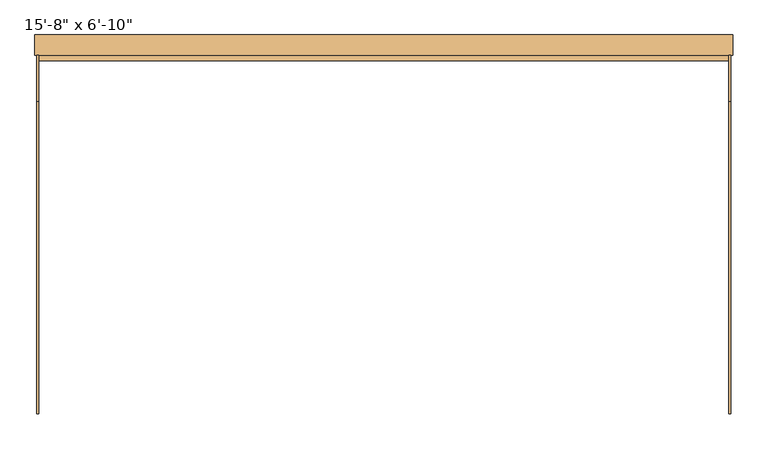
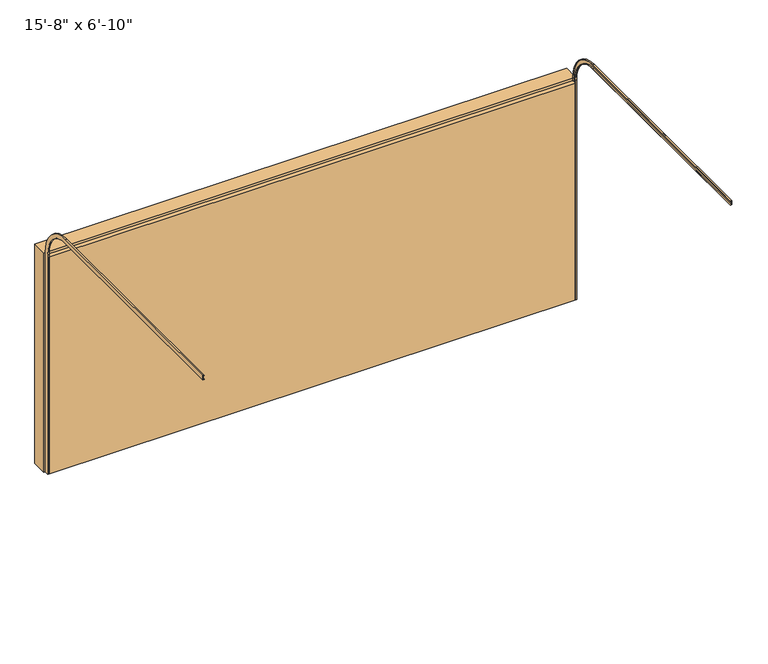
"""IFC4 building model written with IfcOpenShell, lengths in millimetres: door geometry."""

from ifc_helpers import new_model, si_unit, frame, origin, origin_with_axes, place, context, project, spatial, polyline, circle_curve, outline, extrude, source, transform, mapped, element, save
from ifc_brep_helpers import plane_surface, cylinder_surface, revolved_surface, advanced_brep


def door_f78515df(model_context):
    return source(origin(), model_context, "Body", "SolidModel", [
        advanced_brep(
        [(2400.3, -113.025, 0.0), (2387.6, -113.025, 0.0), (2387.6, -109.85, 0.0), (2397.125, -109.85, 0.0), (2397.125, -76.225, 0.0), (2387.6, -76.225, 0.0), (2387.6, -73.025, 0.0), (2400.3, -73.025, 0.0), (2400.3, -113.025, 2107.8), (2387.6, -113.025, 2107.8), (2387.6, -392.425, 2387.2), (2387.6, -2551.425, 2387.2), (2387.6, -2551.425, 2390.375), (2387.6, -392.425, 2390.375), (2387.6, -109.85, 2107.8), (2397.125, -109.85, 2107.8), (2397.125, -392.425, 2390.375), (2397.125, -2551.425, 2390.375), (2397.125, -2551.425, 2424.0), (2397.125, -392.425, 2424.0), (2397.125, -76.225, 2107.8), (2387.6, -76.225, 2107.8), (2387.6, -392.425, 2424.0), (2387.6, -2551.425, 2424.0), (2387.6, -2551.425, 2427.2), (2387.6, -392.425, 2427.2), (2387.6, -73.025, 2107.8), (2400.3, -73.025, 2107.8), (2400.3, -392.425, 2427.2), (2400.3, -2551.425, 2427.2), (2400.3, -2551.425, 2387.2), (2400.3, -392.425, 2387.2)],
        [
            (0, 1),
            (1, 2),
            (2, 3),
            (3, 4),
            (4, 5),
            (5, 6),
            (6, 7),
            (7, 0),
            (0, 8),
            (8, 9),
            (9, 1),
            (9, 10, circle_curve(frame((2387.6, -392.425, 2107.8), z_axis=(1.0, 0.0, 0.0), x_axis=(0.0, 1.0, 0.0)), 279.4)),
            (10, 11),
            (11, 12),
            (12, 13),
            (13, 14, circle_curve(frame((2387.6, -392.425, 2107.8), z_axis=(-1.0, 0.0, 0.0), x_axis=(0.0, 1.0, 0.0)), 282.575)),
            (14, 2),
            (14, 15),
            (15, 3),
            (15, 16, circle_curve(frame((2397.125, -392.425, 2107.8), z_axis=(1.0, 0.0, 0.0), x_axis=(0.0, 1.0, 0.0)), 282.575)),
            (16, 17),
            (17, 18),
            (18, 19),
            (19, 20, circle_curve(frame((2397.125, -392.425, 2107.8), z_axis=(-1.0, 0.0, 0.0), x_axis=(0.0, 1.0, 0.0)), 316.2)),
            (20, 4),
            (20, 21),
            (21, 5),
            (21, 22, circle_curve(frame((2387.6, -392.425, 2107.8), z_axis=(1.0, 0.0, 0.0), x_axis=(0.0, 1.0, 0.0)), 316.2)),
            (22, 23),
            (23, 24),
            (24, 25),
            (25, 26, circle_curve(frame((2387.6, -392.425, 2107.8), z_axis=(-1.0, 0.0, 0.0), x_axis=(0.0, 1.0, 0.0)), 319.4)),
            (26, 6),
            (26, 27),
            (27, 7),
            (27, 28, circle_curve(frame((2400.3, -392.425, 2107.8), z_axis=(1.0, 0.0, 0.0), x_axis=(0.0, 1.0, 0.0)), 319.4)),
            (28, 29),
            (29, 30),
            (30, 31),
            (31, 8, circle_curve(frame((2400.3, -392.425, 2107.8), z_axis=(-1.0, 0.0, 0.0), x_axis=(0.0, 1.0, 0.0)), 279.4)),
            (31, 10),
            (13, 16),
            (19, 22),
            (25, 28),
            (29, 24),
            (23, 18),
            (17, 12),
            (11, 30),
        ],
        [
            plane_surface(frame((0.0, -113.025, 0.0), z_axis=(0.0, 0.0, -1.0), x_axis=(1.0, 0.0, 0.0))),
            plane_surface(frame((2400.3, -113.025, 0.0), z_axis=(0.0, -1.0, 0.0), x_axis=(0.0, 0.0, 1.0))),
            plane_surface(frame((2387.6, -113.025, 0.0), z_axis=(-1.0, 0.0, 0.0), x_axis=(0.0, 0.0, 1.0))),
            plane_surface(frame((2387.6, -109.85, 0.0), z_axis=(0.0, 1.0, 0.0), x_axis=(0.0, 0.0, 1.0))),
            plane_surface(frame((2397.125, -109.85, 0.0), z_axis=(-1.0, 0.0, 0.0), x_axis=(0.0, 0.0, 1.0))),
            plane_surface(frame((2397.125, -76.225, 0.0), z_axis=(0.0, -1.0, 0.0), x_axis=(0.0, 0.0, 1.0))),
            plane_surface(frame((2387.6, -76.225, 0.0), z_axis=(-1.0, 0.0, 0.0), x_axis=(0.0, 0.0, 1.0))),
            plane_surface(frame((2387.6, -73.025, 0.0), z_axis=(0.0, 1.0, 0.0), x_axis=(0.0, 0.0, 1.0))),
            plane_surface(frame((2400.3, -73.025, 0.0), z_axis=(1.0, 0.0, 0.0), x_axis=(0.0, 0.0, 1.0))),
            revolved_surface(polyline([(2400.3, -113.02500000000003, 2107.8), (2387.6, -113.02500000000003, 2107.8)]), (0.0, -392.425, 2107.8), (1.0, 0.0, 0.0)),
            cylinder_surface(frame((0.0, -392.425, 2107.8), z_axis=(1.0, 0.0, 0.0), x_axis=(0.0, 1.0, 0.0)), 282.575),
            revolved_surface(polyline([(2397.125, -76.22500000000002, 2107.8), (2387.6, -76.22500000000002, 2107.8)]), (0.0, -392.425, 2107.8), (1.0, 0.0, 0.0)),
            cylinder_surface(frame((0.0, -392.425, 2107.8), z_axis=(1.0, 0.0, 0.0), x_axis=(0.0, 1.0, 0.0)), 319.4),
            plane_surface(frame((0.0, -2551.425, 2387.2), z_axis=(0.0, -1.0, 0.0), x_axis=(1.0, 0.0, 0.0))),
            plane_surface(frame((2400.3, -392.425, 2387.2), z_axis=(0.0, 0.0, -1.0), x_axis=(0.0, -1.0, 0.0))),
            plane_surface(frame((2387.6, -392.425, 2390.375), z_axis=(0.0, 0.0, 1.0), x_axis=(0.0, -1.0, 0.0))),
            plane_surface(frame((2397.125, -392.425, 2424.0), z_axis=(0.0, 0.0, -1.0), x_axis=(0.0, -1.0, 0.0))),
            plane_surface(frame((2387.6, -392.425, 2427.2), z_axis=(0.0, 0.0, 1.0), x_axis=(0.0, -1.0, 0.0))),
        ],
        [
            (0, [[1, 2, 3, 4, 5, 6, 7, 8]]),
            (1, [[-1, 9, 10, 11]]),
            (2, [[-2, -11, 12, 13, 14, 15, 16, 17]]),
            (3, [[-3, -17, 18, 19]]),
            (4, [[-4, -19, 20, 21, 22, 23, 24, 25]]),
            (5, [[-5, -25, 26, 27]]),
            (6, [[-6, -27, 28, 29, 30, 31, 32, 33]]),
            (7, [[-7, -33, 34, 35]]),
            (8, [[-8, -35, 36, 37, 38, 39, 40, -9]]),
            (9, [[-12, -10, -40, 41]]),
            (10, [[-20, -18, -16, 42]]),
            (11, [[-28, -26, -24, 43]]),
            (12, [[-36, -34, -32, 44]]),
            (13, [[-38, 45, -30, 46, -22, 47, -14, 48]]),
            (14, [[-41, -39, -48, -13]]),
            (15, [[-42, -15, -47, -21]]),
            (16, [[-43, -23, -46, -29]]),
            (17, [[-44, -31, -45, -37]]),
        ],
    ),
        advanced_brep(
        [(-2400.3, -113.025, 0.0), (-2400.3, -73.025, 0.0), (-2387.6, -73.025, 0.0), (-2387.6, -76.225, 0.0), (-2397.125, -76.225, 0.0), (-2397.125, -109.85, 0.0), (-2387.6, -109.85, 0.0), (-2387.6, -113.025, 0.0), (-2400.3, -113.025, 2107.8), (-2400.3, -392.425, 2387.2), (-2400.3, -2551.425, 2387.2), (-2400.3, -2551.425, 2427.2), (-2400.3, -392.425, 2427.2), (-2400.3, -73.025, 2107.8), (-2387.6, -73.025, 2107.8), (-2387.6, -392.425, 2427.2), (-2387.6, -2551.425, 2427.2), (-2387.6, -2551.425, 2424.0), (-2387.6, -392.425, 2424.0), (-2387.6, -76.225, 2107.8), (-2397.125, -76.225, 2107.8), (-2397.125, -392.425, 2424.0), (-2397.125, -2551.425, 2424.0), (-2397.125, -2551.425, 2390.375), (-2397.125, -392.425, 2390.375), (-2397.125, -109.85, 2107.8), (-2387.6, -109.85, 2107.8), (-2387.6, -392.425, 2390.375), (-2387.6, -2551.425, 2390.375), (-2387.6, -2551.425, 2387.2), (-2387.6, -392.425, 2387.2), (-2387.6, -113.025, 2107.8)],
        [
            (0, 1),
            (1, 2),
            (2, 3),
            (3, 4),
            (4, 5),
            (5, 6),
            (6, 7),
            (7, 0),
            (0, 8),
            (8, 9, circle_curve(frame((-2400.3, -392.425, 2107.8), z_axis=(1.0, 0.0, 0.0), x_axis=(0.0, 1.0, 0.0)), 279.4)),
            (9, 10),
            (10, 11),
            (11, 12),
            (12, 13, circle_curve(frame((-2400.3, -392.425, 2107.8), z_axis=(-1.0, 0.0, 0.0), x_axis=(0.0, 1.0, 0.0)), 319.4)),
            (13, 1),
            (13, 14),
            (14, 2),
            (14, 15, circle_curve(frame((-2387.6, -392.425, 2107.8), z_axis=(1.0, 0.0, 0.0), x_axis=(0.0, 1.0, 0.0)), 319.4)),
            (15, 16),
            (16, 17),
            (17, 18),
            (18, 19, circle_curve(frame((-2387.6, -392.425, 2107.8), z_axis=(-1.0, 0.0, 0.0), x_axis=(0.0, 1.0, 0.0)), 316.2)),
            (19, 3),
            (19, 20),
            (20, 4),
            (20, 21, circle_curve(frame((-2397.125, -392.425, 2107.8), z_axis=(1.0, 0.0, 0.0), x_axis=(0.0, 1.0, 0.0)), 316.2)),
            (21, 22),
            (22, 23),
            (23, 24),
            (24, 25, circle_curve(frame((-2397.125, -392.425, 2107.8), z_axis=(-1.0, 0.0, 0.0), x_axis=(0.0, 1.0, 0.0)), 282.575)),
            (25, 5),
            (25, 26),
            (26, 6),
            (26, 27, circle_curve(frame((-2387.6, -392.425, 2107.8), z_axis=(1.0, 0.0, 0.0), x_axis=(0.0, 1.0, 0.0)), 282.575)),
            (27, 28),
            (28, 29),
            (29, 30),
            (30, 31, circle_curve(frame((-2387.6, -392.425, 2107.8), z_axis=(-1.0, 0.0, 0.0), x_axis=(0.0, 1.0, 0.0)), 279.4)),
            (31, 7),
            (31, 8),
            (12, 15),
            (18, 21),
            (24, 27),
            (30, 9),
            (10, 29),
            (28, 23),
            (22, 17),
            (16, 11),
        ],
        [
            plane_surface(frame((0.0, -113.025, 0.0), z_axis=(0.0, 0.0, -1.0), x_axis=(1.0, 0.0, 0.0))),
            plane_surface(frame((-2400.3, -113.025, 0.0), z_axis=(-1.0, 0.0, 0.0), x_axis=(0.0, 0.0, 1.0))),
            plane_surface(frame((-2400.3, -73.025, 0.0), z_axis=(0.0, 1.0, 0.0), x_axis=(0.0, 0.0, 1.0))),
            plane_surface(frame((-2387.6, -73.025, 0.0), z_axis=(1.0, 0.0, 0.0), x_axis=(0.0, 0.0, 1.0))),
            plane_surface(frame((-2387.6, -76.225, 0.0), z_axis=(0.0, -1.0, 0.0), x_axis=(0.0, 0.0, 1.0))),
            plane_surface(frame((-2397.125, -76.225, 0.0), z_axis=(1.0, 0.0, 0.0), x_axis=(0.0, 0.0, 1.0))),
            plane_surface(frame((-2397.125, -109.85, 0.0), z_axis=(0.0, 1.0, 0.0), x_axis=(0.0, 0.0, 1.0))),
            plane_surface(frame((-2387.6, -109.85, 0.0), z_axis=(1.0, 0.0, 0.0), x_axis=(0.0, 0.0, 1.0))),
            plane_surface(frame((-2387.6, -113.025, 0.0), z_axis=(0.0, -1.0, 0.0), x_axis=(0.0, 0.0, 1.0))),
            cylinder_surface(frame((0.0, -392.425, 2107.8), z_axis=(1.0, 0.0, 0.0), x_axis=(0.0, 1.0, 0.0)), 319.4),
            revolved_surface(polyline([(-2387.6, -76.22500000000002, 2107.8), (-2397.125, -76.22500000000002, 2107.8)]), (0.0, -392.425, 2107.8), (1.0, 0.0, 0.0)),
            cylinder_surface(frame((0.0, -392.425, 2107.8), z_axis=(1.0, 0.0, 0.0), x_axis=(0.0, 1.0, 0.0)), 282.575),
            revolved_surface(polyline([(-2387.6, -113.02500000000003, 2107.8), (-2400.3, -113.02500000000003, 2107.8)]), (0.0, -392.425, 2107.8), (1.0, 0.0, 0.0)),
            plane_surface(frame((0.0, -2551.425, 2387.2), z_axis=(0.0, -1.0, 0.0), x_axis=(1.0, 0.0, 0.0))),
            plane_surface(frame((-2400.3, -392.425, 2427.2), z_axis=(0.0, 0.0, 1.0), x_axis=(0.0, -1.0, 0.0))),
            plane_surface(frame((-2387.6, -392.425, 2424.0), z_axis=(0.0, 0.0, -1.0), x_axis=(0.0, -1.0, 0.0))),
            plane_surface(frame((-2397.125, -392.425, 2390.375), z_axis=(0.0, 0.0, 1.0), x_axis=(0.0, -1.0, 0.0))),
            plane_surface(frame((-2387.6, -392.425, 2387.2), z_axis=(0.0, 0.0, -1.0), x_axis=(0.0, -1.0, 0.0))),
        ],
        [
            (0, [[1, 2, 3, 4, 5, 6, 7, 8]]),
            (1, [[-1, 9, 10, 11, 12, 13, 14, 15]]),
            (2, [[-2, -15, 16, 17]]),
            (3, [[-3, -17, 18, 19, 20, 21, 22, 23]]),
            (4, [[-4, -23, 24, 25]]),
            (5, [[-5, -25, 26, 27, 28, 29, 30, 31]]),
            (6, [[-6, -31, 32, 33]]),
            (7, [[-7, -33, 34, 35, 36, 37, 38, 39]]),
            (8, [[-8, -39, 40, -9]]),
            (9, [[-18, -16, -14, 41]]),
            (10, [[-26, -24, -22, 42]]),
            (11, [[-34, -32, -30, 43]]),
            (12, [[-10, -40, -38, 44]]),
            (13, [[45, -36, 46, -28, 47, -20, 48, -12]]),
            (14, [[-41, -13, -48, -19]]),
            (15, [[-42, -21, -47, -27]]),
            (16, [[-43, -29, -46, -35]]),
            (17, [[-44, -37, -45, -11]]),
        ],
    ),
        extrude(outline(polyline([(0.0, 2387.6), (0.0, 2412.6), (2107.8, 2412.6), (2107.8, -2412.6), (0.0, -2412.6), (0.0, -2387.6), (2082.8, -2387.6), (2082.8, 2387.6), (0.0, 2387.6)])), frame((0.0, -73.025, 0.0), z_axis=(0.0, 1.0, 0.0), x_axis=(0.0, 0.0, 1.0)), (0.0, 0.0, 1.0), 139.7),
        extrude(outline(polyline([(2387.6, -113.025), (-2387.6, -113.025), (-2387.6, -73.025), (2387.6, -73.025), (2387.6, -113.025)])), origin_with_axes(), (0.0, 0.0, 1.0), 2082.8),
    ])


if __name__ == "__main__":
    model = new_model("IFC4")
    model_context = context("Model", 3, world=origin())
    ifc_project = project(units=[si_unit("LENGTHUNIT", "METRE", prefix="MILLI")], contexts=[model_context])
    site = spatial("IfcSite", under=ifc_project)
    building = spatial("IfcBuilding", under=site)
    placement = place(None, origin())
    door_shape = door_f78515df(model_context)
    element("IfcDoor", 1, ObjectType="Planitar - Garage Door : 15'-8\" x 6'-10\"", at=placement, inside=building, context=model_context, shape_type="MappedRepresentation", body=[
        mapped(door_shape, transform((0.0, 0.0, 0.0), x_axis=(1.0, 0.0, 0.0), y_axis=(0.0, 1.0, 0.0), z_axis=(0.0, 0.0, 1.0))),
    ])
    save(model, "model.ifc")
